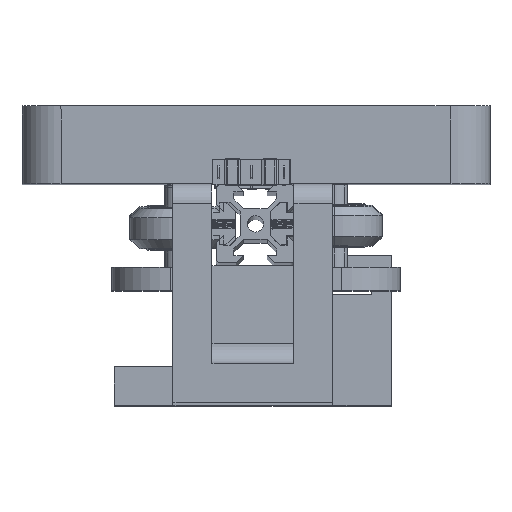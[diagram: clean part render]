
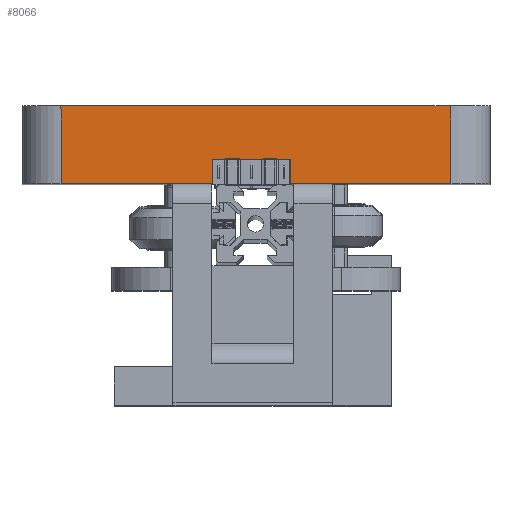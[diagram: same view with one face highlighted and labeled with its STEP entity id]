
A CAD part, top view. The second image highlights one B-rep face of the part: STEP entity #8066.
In plain terms, the highlighted planar face has unit normal (0, 0, 1) as drawn and (0, 1, 0) by its records, which use the part's own axes.
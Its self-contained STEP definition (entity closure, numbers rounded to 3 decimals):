
#977 = CARTESIAN_POINT ( 'NONE',  ( 50., -33.404, 6. ) ) ;
#1902 = LINE ( 'NONE', #28109, #29243 ) ;
#3077 = CARTESIAN_POINT ( 'NONE',  ( 40., -33.404, 6. ) ) ;
#3228 = DIRECTION ( 'NONE',  ( 0., 0., -1. ) ) ;
#4050 = CARTESIAN_POINT ( 'NONE',  ( -70., -33.404, -14. ) ) ;
#5262 = CARTESIAN_POINT ( 'NONE',  ( -60., -33.404, -14. ) ) ;
#7311 = CARTESIAN_POINT ( 'NONE',  ( 40., -33.404, -14. ) ) ;
#8066 = ADVANCED_FACE ( 'NONE', ( #12945 ), #10430, .F. ) ;
#9927 = VERTEX_POINT ( 'NONE', #18372 ) ;
#9984 = VECTOR ( 'NONE', #28077, 1000. ) ;
#10216 = EDGE_CURVE ( 'NONE', #9927, #17836, #27224, .T. ) ;
#10430 = PLANE ( 'NONE',  #22979 ) ;
#10681 = EDGE_CURVE ( 'NONE', #9927, #25960, #30928, .T. ) ;
#12785 = ORIENTED_EDGE ( 'NONE', *, *, #17464, .T. ) ;
#12945 = FACE_OUTER_BOUND ( 'NONE', #21114, .T. ) ;
#13346 = EDGE_CURVE ( 'NONE', #28415, #17836, #25672, .T. ) ;
#13720 = DIRECTION ( 'NONE',  ( 0., 0., 1. ) ) ;
#16715 = VECTOR ( 'NONE', #28062, 1000. ) ;
#17464 = EDGE_CURVE ( 'NONE', #28415, #25960, #1902, .T. ) ;
#17836 = VERTEX_POINT ( 'NONE', #7311 ) ;
#17890 = ORIENTED_EDGE ( 'NONE', *, *, #13346, .F. ) ;
#18045 = VECTOR ( 'NONE', #3228, 1000. ) ;
#18372 = CARTESIAN_POINT ( 'NONE',  ( 40., -33.404, 6. ) ) ;
#18414 = CARTESIAN_POINT ( 'NONE',  ( 50., -33.404, 6. ) ) ;
#19289 = CARTESIAN_POINT ( 'NONE',  ( -60., -33.404, 6. ) ) ;
#21114 = EDGE_LOOP ( 'NONE', ( #17890, #12785, #29529, #26165 ) ) ;
#22979 = AXIS2_PLACEMENT_3D ( 'NONE', #977, #27491, #25099 ) ;
#25099 = DIRECTION ( 'NONE',  ( 0., 0., -1. ) ) ;
#25672 = LINE ( 'NONE', #4050, #16715 ) ;
#25960 = VERTEX_POINT ( 'NONE', #19289 ) ;
#26165 = ORIENTED_EDGE ( 'NONE', *, *, #10216, .T. ) ;
#27224 = LINE ( 'NONE', #3077, #18045 ) ;
#27491 = DIRECTION ( 'NONE',  ( 0., -1., 0. ) ) ;
#28062 = DIRECTION ( 'NONE',  ( 1., 0., 0. ) ) ;
#28077 = DIRECTION ( 'NONE',  ( -1., 0., 0. ) ) ;
#28109 = CARTESIAN_POINT ( 'NONE',  ( -60., -33.404, 6. ) ) ;
#28415 = VERTEX_POINT ( 'NONE', #5262 ) ;
#29243 = VECTOR ( 'NONE', #13720, 1000. ) ;
#29529 = ORIENTED_EDGE ( 'NONE', *, *, #10681, .F. ) ;
#30928 = LINE ( 'NONE', #18414, #9984 ) ;
